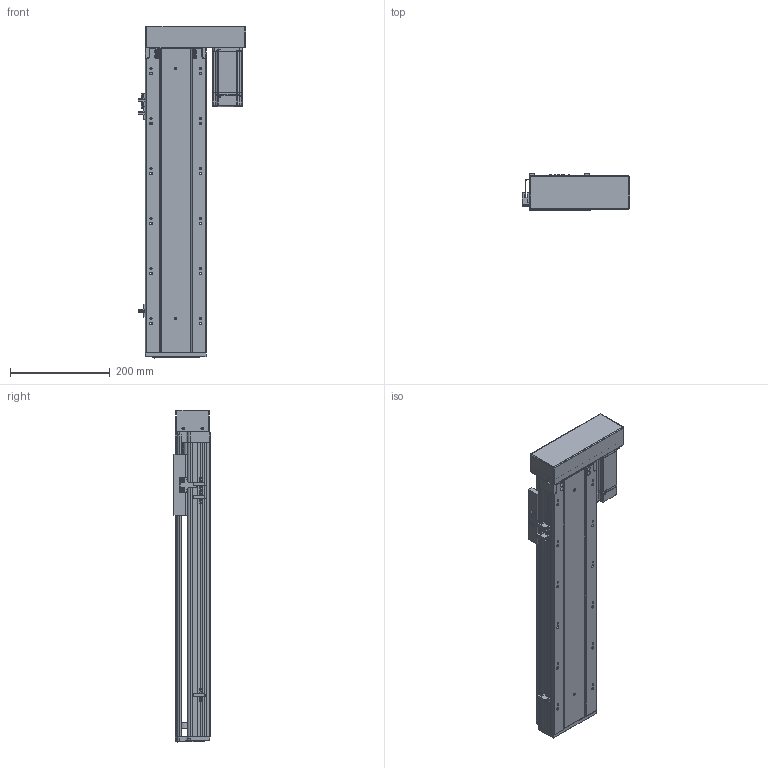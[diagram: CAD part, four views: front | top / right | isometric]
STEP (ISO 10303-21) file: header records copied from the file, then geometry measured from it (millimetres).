
FILE_DESCRIPTION (( 'STEP AP203' ), '1' );
FILE_NAME ('RY120-L1620-300-RK.SLDASM_400.step', '2021-02-22T02:29:43', ( '盈信电脑' ), ( '东莞市道滘镇水果街19号' ), 'SwSTEP 2.0', 'SolidWorks 2012', '' );
FILE_SCHEMA (( 'CONFIG_CONTROL_DESIGN' ));
Products named in the file (14): RY120-L1620-300-RK.SLDASM_400; RY120蛌殏萇儂欶; 侂狟400W侜督萇儂; 15; RY120外置感应片(140共用）; RY120转拆电端丝杆支撑座; RY120酘殏萇儂假蚾啣; 滅袉蝶18-24; 覜茼ん672; RY120綴裔啣; 滅袉蝶18-10; RY120臏賑輸; RY120-300-RK蛌殏倰第菁釱_400; RY120-300-RK蛌殏倰第奻裔啣_400
Assembly tree (16 placements, depth 3):
  RY120-L1620-300-RK.SLDASM_400
    RY120-300-RK蛌殏倰第菁釱_400
    RY120-300-RK蛌殏倰第奻裔啣_400
    RY120臏賑輸
    RY120綴裔啣
    覜茼ん672  x3
    滅袉蝶18-10
    滅袉蝶18-24  x2
    RY120外置感应片(140共用）
    RY120转拆电端丝杆支撑座
    RY120酘殏萇儂假蚾啣
    侂狟400W侜督萇儂
      15
    RY120蛌殏萇儂欶
Bounding box: 214.4 x 73 x 664 mm (x, y, z)
Volume: 2274479.8 mm3; surface area: 794743 mm2
Topology: 16 solids, 16 shells, 2342 faces, 6423 edges, 4122 vertices
Faces by surface type: plane 1206, cylinder 842, cone 189, bspline 105
Entity records: 77024 total; most frequent: CARTESIAN_POINT 21423, ORIENTED_EDGE 11590, DIRECTION 10723, EDGE_CURVE 5795, VERTEX_POINT 3790, LINE 3653, VECTOR 3653, AXIS2_PLACEMENT_3D 3535
